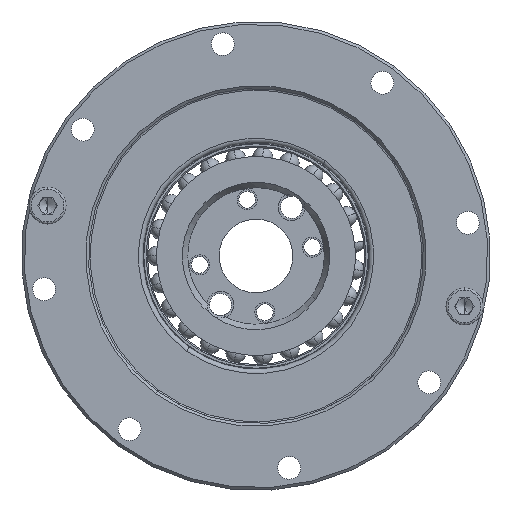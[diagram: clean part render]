
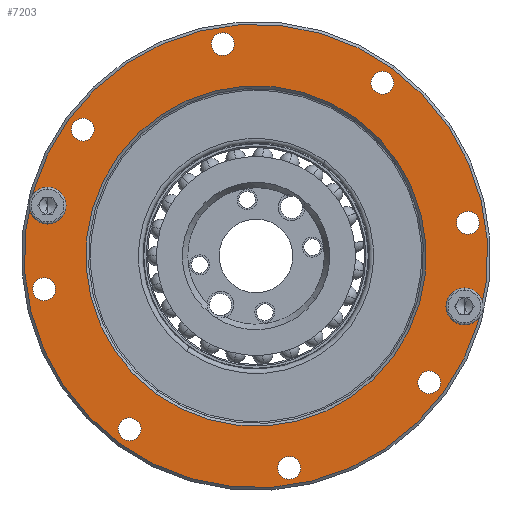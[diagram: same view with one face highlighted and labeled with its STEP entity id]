
A CAD part, left-side view. The second image highlights one B-rep face of the part: STEP entity #7203.
In plain terms, the highlighted planar face has unit normal (-1, 0, 0).
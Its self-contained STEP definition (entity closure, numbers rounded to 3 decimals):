
#6312=CARTESIAN_POINT('',(1.,0.,0.));
#6313=DIRECTION('',(1.,0.,0.));
#6314=DIRECTION('',(0.,0.,-1.));
#6315=AXIS2_PLACEMENT_3D('',#6312,#6313,#6314);
#6317=CARTESIAN_POINT('',(1.,0.,0.));
#6318=DIRECTION('',(1.,0.,0.));
#6319=DIRECTION('',(0.,0.,1.));
#6320=AXIS2_PLACEMENT_3D('',#6317,#6318,#6319);
#6322=CARTESIAN_POINT('',(1.,0.,0.));
#6323=DIRECTION('',(-1.,0.,0.));
#6324=DIRECTION('',(0.,0.,-1.));
#6325=AXIS2_PLACEMENT_3D('',#6322,#6323,#6324);
#6327=CARTESIAN_POINT('',(1.,0.,0.));
#6328=DIRECTION('',(-1.,0.,0.));
#6329=DIRECTION('',(0.,0.,1.));
#6330=AXIS2_PLACEMENT_3D('',#6327,#6328,#6329);
#6332=CARTESIAN_POINT('',(1.,32.,0.));
#6333=DIRECTION('',(-1.,0.,0.));
#6334=DIRECTION('',(0.,0.,1.));
#6335=AXIS2_PLACEMENT_3D('',#6332,#6333,#6334);
#6337=CARTESIAN_POINT('',(1.,32.,0.));
#6338=DIRECTION('',(-1.,0.,0.));
#6339=DIRECTION('',(0.,0.,-1.));
#6340=AXIS2_PLACEMENT_3D('',#6337,#6338,#6339);
#6342=CARTESIAN_POINT('',(1.,22.627,-22.627));
#6343=DIRECTION('',(-1.,0.,0.));
#6344=DIRECTION('',(0.,0.,1.));
#6345=AXIS2_PLACEMENT_3D('',#6342,#6343,#6344);
#6347=CARTESIAN_POINT('',(1.,22.627,-22.627));
#6348=DIRECTION('',(-1.,0.,0.));
#6349=DIRECTION('',(0.,0.,-1.));
#6350=AXIS2_PLACEMENT_3D('',#6347,#6348,#6349);
#6352=CARTESIAN_POINT('',(1.,0.,-32.));
#6353=DIRECTION('',(-1.,0.,0.));
#6354=DIRECTION('',(0.,0.,1.));
#6355=AXIS2_PLACEMENT_3D('',#6352,#6353,#6354);
#6357=CARTESIAN_POINT('',(1.,0.,-32.));
#6358=DIRECTION('',(-1.,0.,0.));
#6359=DIRECTION('',(0.,0.,-1.));
#6360=AXIS2_PLACEMENT_3D('',#6357,#6358,#6359);
#6362=CARTESIAN_POINT('',(1.,-22.627,-22.627));
#6363=DIRECTION('',(-1.,0.,0.));
#6364=DIRECTION('',(0.,0.,1.));
#6365=AXIS2_PLACEMENT_3D('',#6362,#6363,#6364);
#6367=CARTESIAN_POINT('',(1.,-22.627,-22.627));
#6368=DIRECTION('',(-1.,0.,0.));
#6369=DIRECTION('',(0.,0.,-1.));
#6370=AXIS2_PLACEMENT_3D('',#6367,#6368,#6369);
#6372=CARTESIAN_POINT('',(1.,-32.,0.));
#6373=DIRECTION('',(-1.,0.,0.));
#6374=DIRECTION('',(0.,0.,1.));
#6375=AXIS2_PLACEMENT_3D('',#6372,#6373,#6374);
#6377=CARTESIAN_POINT('',(1.,-32.,0.));
#6378=DIRECTION('',(-1.,0.,0.));
#6379=DIRECTION('',(0.,0.,-1.));
#6380=AXIS2_PLACEMENT_3D('',#6377,#6378,#6379);
#6382=CARTESIAN_POINT('',(1.,-22.627,22.627));
#6383=DIRECTION('',(-1.,0.,0.));
#6384=DIRECTION('',(0.,0.,1.));
#6385=AXIS2_PLACEMENT_3D('',#6382,#6383,#6384);
#6387=CARTESIAN_POINT('',(1.,-22.627,22.627));
#6388=DIRECTION('',(-1.,0.,0.));
#6389=DIRECTION('',(0.,0.,-1.));
#6390=AXIS2_PLACEMENT_3D('',#6387,#6388,#6389);
#6392=CARTESIAN_POINT('',(1.,0.,32.));
#6393=DIRECTION('',(-1.,0.,0.));
#6394=DIRECTION('',(0.,0.,1.));
#6395=AXIS2_PLACEMENT_3D('',#6392,#6393,#6394);
#6397=CARTESIAN_POINT('',(1.,0.,32.));
#6398=DIRECTION('',(-1.,0.,0.));
#6399=DIRECTION('',(0.,0.,-1.));
#6400=AXIS2_PLACEMENT_3D('',#6397,#6398,#6399);
#6402=CARTESIAN_POINT('',(1.,22.627,22.627));
#6403=DIRECTION('',(-1.,0.,0.));
#6404=DIRECTION('',(0.,0.,1.));
#6405=AXIS2_PLACEMENT_3D('',#6402,#6403,#6404);
#6407=CARTESIAN_POINT('',(1.,22.627,22.627));
#6408=DIRECTION('',(-1.,0.,0.));
#6409=DIRECTION('',(0.,0.,-1.));
#6410=AXIS2_PLACEMENT_3D('',#6407,#6408,#6409);
#6412=CARTESIAN_POINT('',(1.,29.564,-12.246));
#6413=DIRECTION('',(-1.,0.,0.));
#6414=DIRECTION('',(0.,0.,-1.));
#6415=AXIS2_PLACEMENT_3D('',#6412,#6413,#6414);
#6417=CARTESIAN_POINT('',(1.,29.564,-12.246));
#6418=DIRECTION('',(-1.,0.,0.));
#6419=DIRECTION('',(0.,0.,1.));
#6420=AXIS2_PLACEMENT_3D('',#6417,#6418,#6419);
#6422=CARTESIAN_POINT('',(1.,-29.564,12.246));
#6423=DIRECTION('',(-1.,0.,0.));
#6424=DIRECTION('',(0.,0.,-1.));
#6425=AXIS2_PLACEMENT_3D('',#6422,#6423,#6424);
#6427=CARTESIAN_POINT('',(1.,-29.564,12.246));
#6428=DIRECTION('',(-1.,0.,0.));
#6429=DIRECTION('',(0.,0.,1.));
#6430=AXIS2_PLACEMENT_3D('',#6427,#6428,#6429);
#6935=CARTESIAN_POINT('',(1.,-29.564,13.496));
#6937=VERTEX_POINT('',#6935);
#6938=CARTESIAN_POINT('',(1.,-29.564,10.996));
#6939=VERTEX_POINT('',#6938);
#6942=CARTESIAN_POINT('',(1.,0.,-34.6));
#6943=CARTESIAN_POINT('',(1.,0.,34.6));
#6944=VERTEX_POINT('',#6942);
#6945=VERTEX_POINT('',#6943);
#6946=CARTESIAN_POINT('',(1.,0.,-25.4));
#6947=CARTESIAN_POINT('',(1.,0.,25.4));
#6948=VERTEX_POINT('',#6946);
#6949=VERTEX_POINT('',#6947);
#6950=CARTESIAN_POINT('',(1.,32.,1.7));
#6951=CARTESIAN_POINT('',(1.,32.,-1.7));
#6952=VERTEX_POINT('',#6950);
#6953=VERTEX_POINT('',#6951);
#6954=CARTESIAN_POINT('',(1.,22.627,-20.927));
#6955=CARTESIAN_POINT('',(1.,22.627,-24.327));
#6956=VERTEX_POINT('',#6954);
#6957=VERTEX_POINT('',#6955);
#6958=CARTESIAN_POINT('',(1.,0.,-30.3));
#6959=CARTESIAN_POINT('',(1.,0.,-33.7));
#6960=VERTEX_POINT('',#6958);
#6961=VERTEX_POINT('',#6959);
#6962=CARTESIAN_POINT('',(1.,-22.627,-20.927));
#6963=CARTESIAN_POINT('',(1.,-22.627,-24.327));
#6964=VERTEX_POINT('',#6962);
#6965=VERTEX_POINT('',#6963);
#6966=CARTESIAN_POINT('',(1.,-32.,1.7));
#6967=CARTESIAN_POINT('',(1.,-32.,-1.7));
#6968=VERTEX_POINT('',#6966);
#6969=VERTEX_POINT('',#6967);
#6970=CARTESIAN_POINT('',(1.,-22.627,24.327));
#6971=CARTESIAN_POINT('',(1.,-22.627,20.927));
#6972=VERTEX_POINT('',#6970);
#6973=VERTEX_POINT('',#6971);
#6974=CARTESIAN_POINT('',(1.,0.,33.7));
#6975=CARTESIAN_POINT('',(1.,0.,30.3));
#6976=VERTEX_POINT('',#6974);
#6977=VERTEX_POINT('',#6975);
#6978=CARTESIAN_POINT('',(1.,22.627,24.327));
#6979=CARTESIAN_POINT('',(1.,22.627,20.927));
#6980=VERTEX_POINT('',#6978);
#6981=VERTEX_POINT('',#6979);
#6982=CARTESIAN_POINT('',(1.,29.564,-13.496));
#6983=CARTESIAN_POINT('',(1.,29.564,-10.996));
#6984=VERTEX_POINT('',#6982);
#6985=VERTEX_POINT('',#6983);
#7128=CARTESIAN_POINT('',(1.,0.,0.));
#7129=DIRECTION('',(1.,0.,0.));
#7130=DIRECTION('',(0.,0.,-1.));
#7131=AXIS2_PLACEMENT_3D('',#7128,#7129,#7130);
#7132=PLANE('',#7131);
#7134=ORIENTED_EDGE('',*,*,#7133,.T.);
#7136=ORIENTED_EDGE('',*,*,#7135,.T.);
#7137=EDGE_LOOP('',(#7134,#7136));
#7138=FACE_OUTER_BOUND('',#7137,.F.);
#7140=ORIENTED_EDGE('',*,*,#7139,.T.);
#7142=ORIENTED_EDGE('',*,*,#7141,.T.);
#7143=EDGE_LOOP('',(#7140,#7142));
#7144=FACE_BOUND('',#7143,.F.);
#7146=ORIENTED_EDGE('',*,*,#7145,.T.);
#7148=ORIENTED_EDGE('',*,*,#7147,.T.);
#7149=EDGE_LOOP('',(#7146,#7148));
#7150=FACE_BOUND('',#7149,.F.);
#7152=ORIENTED_EDGE('',*,*,#7151,.T.);
#7154=ORIENTED_EDGE('',*,*,#7153,.T.);
#7155=EDGE_LOOP('',(#7152,#7154));
#7156=FACE_BOUND('',#7155,.F.);
#7158=ORIENTED_EDGE('',*,*,#7157,.T.);
#7160=ORIENTED_EDGE('',*,*,#7159,.T.);
#7161=EDGE_LOOP('',(#7158,#7160));
#7162=FACE_BOUND('',#7161,.F.);
#7164=ORIENTED_EDGE('',*,*,#7163,.T.);
#7166=ORIENTED_EDGE('',*,*,#7165,.T.);
#7167=EDGE_LOOP('',(#7164,#7166));
#7168=FACE_BOUND('',#7167,.F.);
#7170=ORIENTED_EDGE('',*,*,#7169,.T.);
#7172=ORIENTED_EDGE('',*,*,#7171,.T.);
#7173=EDGE_LOOP('',(#7170,#7172));
#7174=FACE_BOUND('',#7173,.F.);
#7176=ORIENTED_EDGE('',*,*,#7175,.T.);
#7178=ORIENTED_EDGE('',*,*,#7177,.T.);
#7179=EDGE_LOOP('',(#7176,#7178));
#7180=FACE_BOUND('',#7179,.F.);
#7182=ORIENTED_EDGE('',*,*,#7181,.T.);
#7184=ORIENTED_EDGE('',*,*,#7183,.T.);
#7185=EDGE_LOOP('',(#7182,#7184));
#7186=FACE_BOUND('',#7185,.F.);
#7188=ORIENTED_EDGE('',*,*,#7187,.T.);
#7190=ORIENTED_EDGE('',*,*,#7189,.T.);
#7191=EDGE_LOOP('',(#7188,#7190));
#7192=FACE_BOUND('',#7191,.F.);
#7194=ORIENTED_EDGE('',*,*,#7193,.T.);
#7196=ORIENTED_EDGE('',*,*,#7195,.T.);
#7197=EDGE_LOOP('',(#7194,#7196));
#7198=FACE_BOUND('',#7197,.F.);
#7199=ORIENTED_EDGE('',*,*,#7105,.T.);
#7200=ORIENTED_EDGE('',*,*,#7119,.T.);
#7201=EDGE_LOOP('',(#7199,#7200));
#7202=FACE_BOUND('',#7201,.F.);
#6316=CIRCLE('',#6315,34.6);
#6321=CIRCLE('',#6320,34.6);
#6326=CIRCLE('',#6325,25.4);
#6331=CIRCLE('',#6330,25.4);
#6336=CIRCLE('',#6335,1.7);
#6341=CIRCLE('',#6340,1.7);
#6346=CIRCLE('',#6345,1.7);
#6351=CIRCLE('',#6350,1.7);
#6356=CIRCLE('',#6355,1.7);
#6361=CIRCLE('',#6360,1.7);
#6366=CIRCLE('',#6365,1.7);
#6371=CIRCLE('',#6370,1.7);
#6376=CIRCLE('',#6375,1.7);
#6381=CIRCLE('',#6380,1.7);
#6386=CIRCLE('',#6385,1.7);
#6391=CIRCLE('',#6390,1.7);
#6396=CIRCLE('',#6395,1.7);
#6401=CIRCLE('',#6400,1.7);
#6406=CIRCLE('',#6405,1.7);
#6411=CIRCLE('',#6410,1.7);
#6416=CIRCLE('',#6415,1.25);
#6421=CIRCLE('',#6420,1.25);
#6426=CIRCLE('',#6425,1.25);
#6431=CIRCLE('',#6430,1.25);
#7105=EDGE_CURVE('',#6939,#6937,#6426,.T.);
#7119=EDGE_CURVE('',#6937,#6939,#6431,.T.);
#7133=EDGE_CURVE('',#6944,#6945,#6316,.T.);
#7135=EDGE_CURVE('',#6945,#6944,#6321,.T.);
#7139=EDGE_CURVE('',#6948,#6949,#6326,.T.);
#7141=EDGE_CURVE('',#6949,#6948,#6331,.T.);
#7145=EDGE_CURVE('',#6952,#6953,#6336,.T.);
#7147=EDGE_CURVE('',#6953,#6952,#6341,.T.);
#7151=EDGE_CURVE('',#6956,#6957,#6346,.T.);
#7153=EDGE_CURVE('',#6957,#6956,#6351,.T.);
#7157=EDGE_CURVE('',#6960,#6961,#6356,.T.);
#7159=EDGE_CURVE('',#6961,#6960,#6361,.T.);
#7163=EDGE_CURVE('',#6964,#6965,#6366,.T.);
#7165=EDGE_CURVE('',#6965,#6964,#6371,.T.);
#7169=EDGE_CURVE('',#6968,#6969,#6376,.T.);
#7171=EDGE_CURVE('',#6969,#6968,#6381,.T.);
#7175=EDGE_CURVE('',#6972,#6973,#6386,.T.);
#7177=EDGE_CURVE('',#6973,#6972,#6391,.T.);
#7181=EDGE_CURVE('',#6976,#6977,#6396,.T.);
#7183=EDGE_CURVE('',#6977,#6976,#6401,.T.);
#7187=EDGE_CURVE('',#6980,#6981,#6406,.T.);
#7189=EDGE_CURVE('',#6981,#6980,#6411,.T.);
#7193=EDGE_CURVE('',#6984,#6985,#6416,.T.);
#7195=EDGE_CURVE('',#6985,#6984,#6421,.T.);
#7203=ADVANCED_FACE('',(#7138,#7144,#7150,#7156,#7162,#7168,#7174,#7180,#7186,
#7192,#7198,#7202),#7132,.F.);
